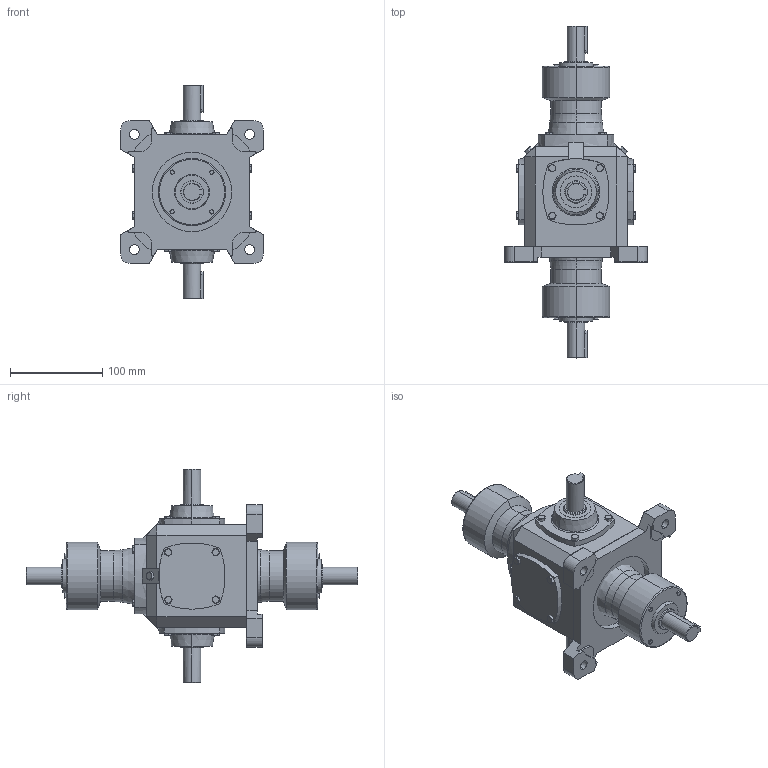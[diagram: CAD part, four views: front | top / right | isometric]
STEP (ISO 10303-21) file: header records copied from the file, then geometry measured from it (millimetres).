
FILE_DESCRIPTION (( 'STEP AP203' ), '1' );
FILE_NAME ('TC4-1-WXH1-E6.step', '2018-07-14T02:14:32', ( 'IT Division' ), ( 'IT' ), 'SwSTEP 2.0', 'SolidWorks 2016', '' );
FILE_SCHEMA (( 'CONFIG_CONTROL_DESIGN' ));
Length unit declared in the file: millimetre
Products named in the file (1): TC4-1-WXH1-E6
Bounding box: 155 x 360 x 232 mm (x, y, z)
Volume: 2294267 mm3; surface area: 179298.7 mm2
Topology: 2 solids, 2 shells, 684 faces, 1621 edges, 988 vertices
Faces by surface type: plane 327, cone 238, cylinder 103, torus 16
Entity records: 20575 total; most frequent: CARTESIAN_POINT 5257, ORIENTED_EDGE 3242, DIRECTION 3037, EDGE_CURVE 1621, AXIS2_PLACEMENT_3D 1132, VERTEX_POINT 988, LINE 773, VECTOR 773
